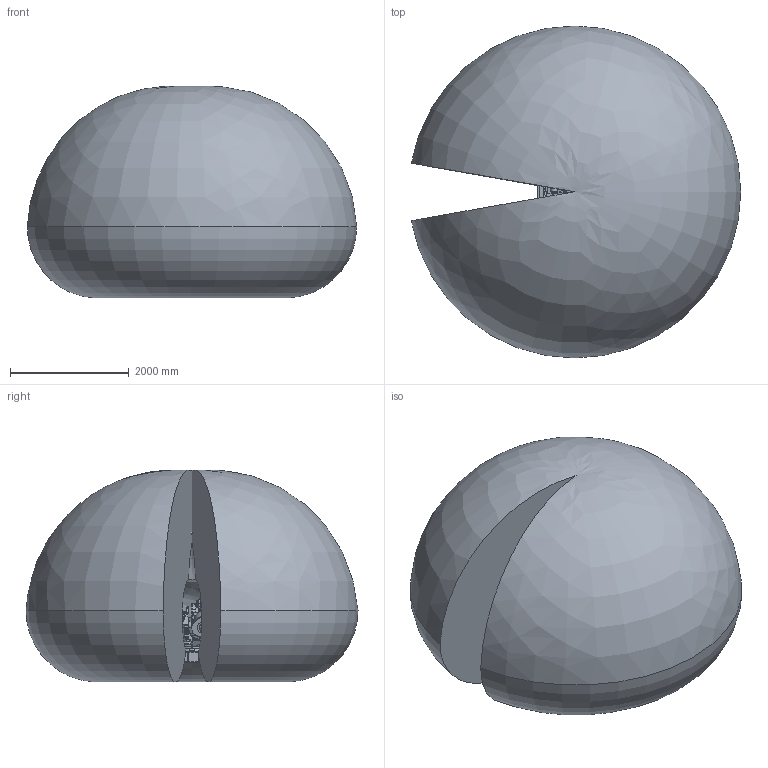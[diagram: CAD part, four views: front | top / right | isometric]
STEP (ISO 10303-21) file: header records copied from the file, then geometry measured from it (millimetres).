
FILE_DESCRIPTION(/* description */ (''),/* implementation_level */ '2;1');
FILE_NAME(/* name */ 'E:\组装完成的图纸\IRB 6700\IRB 6700-205-2.8\IRB 6700-205-2.8(带工作域).stp',/* time_stamp */ '2023-11-04T19:33:04+08:00',/* author */ ('Administrator'),/* organization */ (''),/* preprocessor_version */ 'ST-DEVELOPER v16.5',/* originating_system */ 'Autodesk Inventor 2017',/* authorisation */ '');
FILE_SCHEMA (('AUTOMOTIVE_DESIGN { 1 0 10303 214 3 1 1 }'));
Products named in the file (17): 部件3; IRB6700_205-280_IRC5_rev00_LOGO1_CAD; IRB6700_205-280_IRC5_rev00_LOGO2_CAD; IRB6700_205-280_IRC5_rev00_LOGO3_CAD; IRB6700_205-280_IRC5_rev01_BASE_CAD; IRB6700_205-280_IRC5_rev01_LINK02m_CABLE; IRB6700_205-280_IRC5_rev02_LINK01m_CABLE; IRB6700_205-280_IRC5_rev02_LINK03m_CABLE; IRB6700_205-280_IRC5_rev02_LINK04_CAD; IRB6700_205-280_IRC5_rev02_LINK06_CAD; IRB6700_205-280_IRC5_rev03_LINK02_CAD; IRB6700_205-280_IRC5_rev03_ROD_CAD; IRB6700_205-280_IRC5_rev04_LINK05_CAD; IRB6700_205-280_IRC5_rev05_LINK03_CAD; IRB6700_205-280_IRC5_rev06_CYLINDER_CAD; IRB6700_205-280_IRC5_rev06_LINK01_CAD; IRB6700_280_Working_space
Assembly tree (16 placements, depth 2):
  部件3
    IRB6700_205-280_IRC5_rev00_LOGO1_CAD
    IRB6700_205-280_IRC5_rev00_LOGO2_CAD
    IRB6700_205-280_IRC5_rev00_LOGO3_CAD
    IRB6700_205-280_IRC5_rev01_BASE_CAD
    IRB6700_205-280_IRC5_rev01_LINK02m_CABLE
    IRB6700_205-280_IRC5_rev02_LINK01m_CABLE
    IRB6700_205-280_IRC5_rev02_LINK03m_CABLE
    IRB6700_205-280_IRC5_rev02_LINK04_CAD
    IRB6700_205-280_IRC5_rev02_LINK06_CAD
    IRB6700_205-280_IRC5_rev03_LINK02_CAD
    IRB6700_205-280_IRC5_rev03_ROD_CAD
    IRB6700_205-280_IRC5_rev04_LINK05_CAD
    IRB6700_205-280_IRC5_rev05_LINK03_CAD
    IRB6700_205-280_IRC5_rev06_CYLINDER_CAD
    IRB6700_205-280_IRC5_rev06_LINK01_CAD
    IRB6700_280_Working_space
Bounding box: 5545.55 x 5588 x 3563.09 mm (x, y, z)
Volume: 57012898719.9 mm3; surface area: 111143169.9 mm2
Topology: 18 solids, 20 shells, 5386 faces, 14259 edges, 9226 vertices
Faces by surface type: plane 3324, cylinder 1082, cone 523, bspline 435, torus 17, sphere 5
Full cylindrical faces by diameter (mm): 5 x23, 6 x14, 6.5 x4, 6.6 x9, 6.8 x12, 7 x16, 7.1 x2, 7.5 x8, 8 x2, 8.3 x4, 8.5 x4, 8.6 x4, 8.8 x4, 9 x5, 10 x4, 10.2 x37, 11.05 x4, 12 x1, 12.5 x2, 13 x1, 14 x6, 14.385 x3, 16 x1, 16.3 x1, 17.5 x8, 17.583 x1, 17.6 x1, 17.608 x1, 18 x15, 18.2 x4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
Entity records: 232323 total; most frequent: CARTESIAN_POINT 103025, ORIENTED_EDGE 26940, DIRECTION 25153, EDGE_CURVE 13470, VERTEX_POINT 9018, AXIS2_PLACEMENT_3D 8497, LINE 8159, VECTOR 8159
